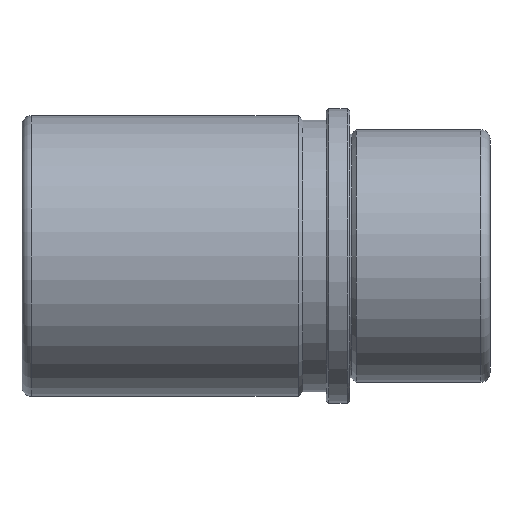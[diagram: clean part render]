
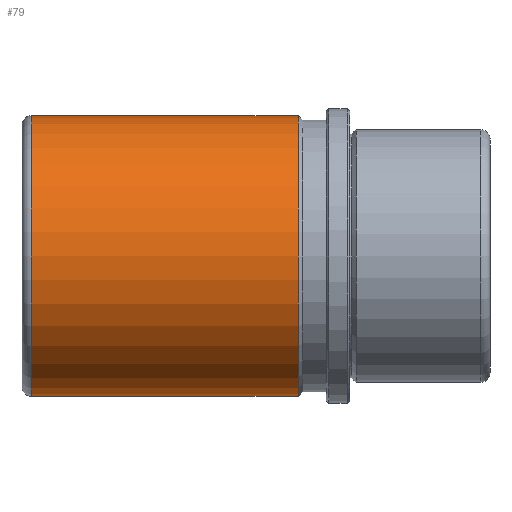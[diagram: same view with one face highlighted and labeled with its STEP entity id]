
A CAD part, front view. The second image highlights one B-rep face of the part: STEP entity #79.
In plain terms, the highlighted cylindrical face has radius 30 mm (diameter 60 mm), a full revolution.
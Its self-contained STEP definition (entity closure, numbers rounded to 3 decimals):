
#79 = ADVANCED_FACE( '', ( #173, #174, #175 ), #176, .T. );
#173 = FACE_OUTER_BOUND( '', #266, .T. );
#174 = FACE_BOUND( '', #267, .T. );
#175 = FACE_OUTER_BOUND( '', #268, .T. );
#176 = CYLINDRICAL_SURFACE( '', #269, 30. );
#266 = EDGE_LOOP( '', ( #387 ) );
#267 = EDGE_LOOP( '', ( #388 ) );
#268 = EDGE_LOOP( '', ( #389 ) );
#269 = AXIS2_PLACEMENT_3D( '', #390, #391, #392 );
#387 = ORIENTED_EDGE( '', *, *, #436, .T. );
#388 = ORIENTED_EDGE( '', *, *, #413, .T. );
#389 = ORIENTED_EDGE( '', *, *, #450, .F. );
#390 = CARTESIAN_POINT( '', ( 30., 0., 0. ) );
#391 = DIRECTION( '', ( -1., 0., 0. ) );
#392 = DIRECTION( '', ( 0., 0., -1. ) );
#413 = EDGE_CURVE( '', #457, #457, #458, .T. );
#436 = EDGE_CURVE( '', #494, #494, #495, .T. );
#450 = EDGE_CURVE( '', #514, #514, #515, .T. );
#457 = VERTEX_POINT( '', #587 );
#458 = B_SPLINE_CURVE_WITH_KNOTS( '', 3, ( #588, #589, #590, #591, #592, #593, #594, #595, #596, #597, #598, #599, #600, #601, #602, #603, #604, #605, #606, #607, #608, #609, #610, #611, #612, #613, #614, #615, #616, #617, #618, #619, #620, #621, #622, #623, #624, #625, #626, #627, #628, #629, #630, #631, #632, #633, #634, #635, #636, #637, #638, #639, #640, #641, #642, #643, #644, #645, #646, #647, #648, #649, #650, #651, #652, #653 ), .UNSPECIFIED., .T., .F., ( 2, 2, 2, 2, 2, 2, 2, 2, 2, 2, 2, 2, 2, 2, 2, 2, 2, 2, 2, 2, 2, 2, 2, 2, 2, 2, 2, 2, 2, 2, 2, 2, 2, 2, 2 ), ( -0.001, 0., 0.001, 0.002, 0.002, 0.003, 0.004, 0.005, 0.006, 0.007, 0.007, 0.008, 0.009, 0.01, 0.011, 0.011, 0.012, 0.013, 0.014, 0.015, 0.016, 0.016, 0.017, 0.018, 0.019, 0.02, 0.02, 0.021, 0.022, 0.023, 0.024, 0.025, 0.025, 0.026, 0.027 ), .UNSPECIFIED. );
#494 = VERTEX_POINT( '', #689 );
#495 = CIRCLE( '', #690, 30. );
#514 = VERTEX_POINT( '', #709 );
#515 = CIRCLE( '', #710, 30. );
#587 = CARTESIAN_POINT( '', ( -18., 29.706, -4.188 ) );
#588 = CARTESIAN_POINT( '', ( -18.277, 29.706, -4.188 ) );
#589 = CARTESIAN_POINT( '', ( -17.723, 29.706, -4.188 ) );
#590 = CARTESIAN_POINT( '', ( -17.451, 29.71, -4.161 ) );
#591 = CARTESIAN_POINT( '', ( -16.915, 29.725, -4.054 ) );
#592 = CARTESIAN_POINT( '', ( -16.649, 29.736, -3.974 ) );
#593 = CARTESIAN_POINT( '', ( -16.142, 29.763, -3.763 ) );
#594 = CARTESIAN_POINT( '', ( -15.901, 29.779, -3.635 ) );
#595 = CARTESIAN_POINT( '', ( -15.446, 29.815, -3.331 ) );
#596 = CARTESIAN_POINT( '', ( -15.231, 29.834, -3.154 ) );
#597 = CARTESIAN_POINT( '', ( -14.845, 29.873, -2.768 ) );
#598 = CARTESIAN_POINT( '', ( -14.672, 29.892, -2.557 ) );
#599 = CARTESIAN_POINT( '', ( -14.366, 29.927, -2.1 ) );
#600 = CARTESIAN_POINT( '', ( -14.236, 29.944, -1.857 ) );
#601 = CARTESIAN_POINT( '', ( -14.027, 29.971, -1.353 ) );
#602 = CARTESIAN_POINT( '', ( -13.947, 29.981, -1.089 ) );
#603 = CARTESIAN_POINT( '', ( -13.839, 29.996, -0.548 ) );
#604 = CARTESIAN_POINT( '', ( -13.812, 30., -0.276 ) );
#605 = CARTESIAN_POINT( '', ( -13.812, 30., 0.271 ) );
#606 = CARTESIAN_POINT( '', ( -13.839, 29.996, 0.549 ) );
#607 = CARTESIAN_POINT( '', ( -13.946, 29.982, 1.086 ) );
#608 = CARTESIAN_POINT( '', ( -14.025, 29.971, 1.348 ) );
#609 = CARTESIAN_POINT( '', ( -14.235, 29.944, 1.855 ) );
#610 = CARTESIAN_POINT( '', ( -14.366, 29.927, 2.1 ) );
#611 = CARTESIAN_POINT( '', ( -14.669, 29.892, 2.553 ) );
#612 = CARTESIAN_POINT( '', ( -14.842, 29.873, 2.765 ) );
#613 = CARTESIAN_POINT( '', ( -15.233, 29.834, 3.156 ) );
#614 = CARTESIAN_POINT( '', ( -15.444, 29.815, 3.329 ) );
#615 = CARTESIAN_POINT( '', ( -15.897, 29.78, 3.632 ) );
#616 = CARTESIAN_POINT( '', ( -16.142, 29.763, 3.763 ) );
#617 = CARTESIAN_POINT( '', ( -16.649, 29.736, 3.974 ) );
#618 = CARTESIAN_POINT( '', ( -16.91, 29.725, 4.053 ) );
#619 = CARTESIAN_POINT( '', ( -17.447, 29.71, 4.16 ) );
#620 = CARTESIAN_POINT( '', ( -17.725, 29.706, 4.188 ) );
#621 = CARTESIAN_POINT( '', ( -18.272, 29.706, 4.188 ) );
#622 = CARTESIAN_POINT( '', ( -18.544, 29.71, 4.162 ) );
#623 = CARTESIAN_POINT( '', ( -19.085, 29.725, 4.054 ) );
#624 = CARTESIAN_POINT( '', ( -19.349, 29.736, 3.974 ) );
#625 = CARTESIAN_POINT( '', ( -19.853, 29.763, 3.766 ) );
#626 = CARTESIAN_POINT( '', ( -20.097, 29.779, 3.635 ) );
#627 = CARTESIAN_POINT( '', ( -20.555, 29.815, 3.33 ) );
#628 = CARTESIAN_POINT( '', ( -20.765, 29.834, 3.157 ) );
#629 = CARTESIAN_POINT( '', ( -21.152, 29.872, 2.771 ) );
#630 = CARTESIAN_POINT( '', ( -21.329, 29.892, 2.556 ) );
#631 = CARTESIAN_POINT( '', ( -21.633, 29.927, 2.102 ) );
#632 = CARTESIAN_POINT( '', ( -21.762, 29.943, 1.862 ) );
#633 = CARTESIAN_POINT( '', ( -21.972, 29.97, 1.354 ) );
#634 = CARTESIAN_POINT( '', ( -22.053, 29.981, 1.089 ) );
#635 = CARTESIAN_POINT( '', ( -22.16, 29.996, 0.553 ) );
#636 = CARTESIAN_POINT( '', ( -22.188, 30., 0.281 ) );
#637 = CARTESIAN_POINT( '', ( -22.188, 30., -0.273 ) );
#638 = CARTESIAN_POINT( '', ( -22.161, 29.996, -0.546 ) );
#639 = CARTESIAN_POINT( '', ( -22.055, 29.982, -1.081 ) );
#640 = CARTESIAN_POINT( '', ( -21.975, 29.971, -1.348 ) );
#641 = CARTESIAN_POINT( '', ( -21.765, 29.944, -1.855 ) );
#642 = CARTESIAN_POINT( '', ( -21.636, 29.928, -2.095 ) );
#643 = CARTESIAN_POINT( '', ( -21.333, 29.892, -2.551 ) );
#644 = CARTESIAN_POINT( '', ( -21.156, 29.873, -2.766 ) );
#645 = CARTESIAN_POINT( '', ( -20.771, 29.835, -3.152 ) );
#646 = CARTESIAN_POINT( '', ( -20.56, 29.816, -3.326 ) );
#647 = CARTESIAN_POINT( '', ( -20.103, 29.78, -3.632 ) );
#648 = CARTESIAN_POINT( '', ( -19.86, 29.763, -3.762 ) );
#649 = CARTESIAN_POINT( '', ( -19.356, 29.736, -3.972 ) );
#650 = CARTESIAN_POINT( '', ( -19.092, 29.725, -4.053 ) );
#651 = CARTESIAN_POINT( '', ( -18.551, 29.71, -4.161 ) );
#652 = CARTESIAN_POINT( '', ( -18.277, 29.706, -4.188 ) );
#653 = CARTESIAN_POINT( '', ( -17.723, 29.706, -4.188 ) );
#689 = CARTESIAN_POINT( '', ( -68., 0., -30. ) );
#690 = AXIS2_PLACEMENT_3D( '', #753, #754, #755 );
#709 = CARTESIAN_POINT( '', ( -11., 0., -30. ) );
#710 = AXIS2_PLACEMENT_3D( '', #771, #772, #773 );
#753 = CARTESIAN_POINT( '', ( -68., 0., 0. ) );
#754 = DIRECTION( '', ( 1., 0., 0. ) );
#755 = DIRECTION( '', ( 0., 0., -1. ) );
#771 = CARTESIAN_POINT( '', ( -11., 0., 0. ) );
#772 = DIRECTION( '', ( 1., 0., 0. ) );
#773 = DIRECTION( '', ( 0., 0., -1. ) );
